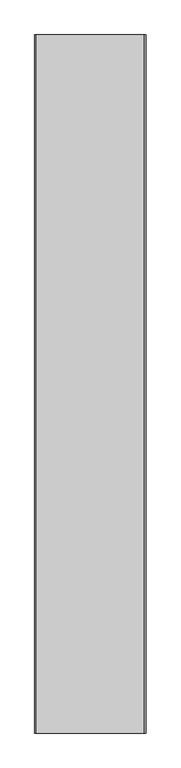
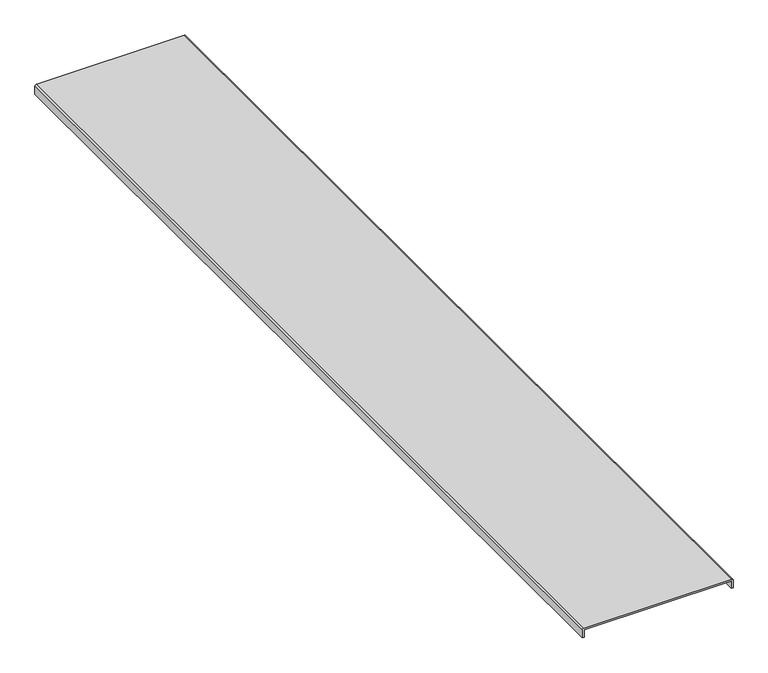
"""IFC4 building model written with IfcOpenShell, lengths in millimetres: proxy geometry, Cable_Tray_Cover_TWT_Basorcanal : Basorcanal TWT 300."""

from ifc_helpers import new_model, si_unit, point, frame, frame_2d, origin, place, context, project, spatial, polyline, circle_curve, trimmed, segment, composite_curve, outline, extrude, source, transform, mapped, element, save


def generic_models_ec9d9685(model_context):
    return source(origin(), model_context, "Body", "SweptSolid", [
        extrude(outline(composite_curve([segment(trimmed(circle_curve(frame_2d((-0.5, -149.5)), 0.5), [point((-0.5, -150.0))], [point((0.0, -149.5))], True, "CARTESIAN"), True, "CONTINUOUS"), segment(polyline([(0.0, -149.5), (0.0, 149.5)]), True, "CONTINUOUS"), segment(trimmed(circle_curve(frame_2d((-0.5, 149.5)), 0.5), [point((0.0, 149.5))], [point((-0.5, 150.0))], True, "CARTESIAN"), True, "CONTINUOUS"), segment(polyline([(-0.5, 150.0), (-16.0, 150.0), (-16.0, 154.0), (0.9268922, 154.0)]), True, "CONTINUOUS"), segment(trimmed(circle_curve(frame_2d((0.9268922, 150.9268922)), 3.0731078), [point((0.9268922, 154.0))], [point((4.0, 150.9268922))], False, "CARTESIAN"), True, "CONTINUOUS"), segment(polyline([(4.0, 150.9268922), (4.0, -150.6770801)]), True, "CONTINUOUS"), segment(trimmed(circle_curve(frame_2d((0.6770801, -150.6770801)), 3.3229199), [point((4.0, -150.6770801))], [point((0.6770801, -154.0))], False, "CARTESIAN"), True, "CONTINUOUS"), segment(polyline([(0.6770801, -154.0), (-16.0, -154.0), (-16.0, -150.0), (-0.5, -150.0)]), True, "CONTINUOUS")], self_intersect=False)), frame((0.0, 0.0, 0.0), z_axis=(0.0, 1.0, 0.0), x_axis=(0.0, 0.0, 1.0)), (0.0, 0.0, 1.0), 1933.9),
    ])


if __name__ == "__main__":
    model = new_model("IFC4")
    model_context = context("Model", 3, world=origin())
    ifc_project = project(units=[si_unit("LENGTHUNIT", "METRE", prefix="MILLI")], contexts=[model_context])
    site = spatial("IfcSite", under=ifc_project)
    building = spatial("IfcBuilding", under=site)
    placement = place(None, origin())
    generic_models_shape = generic_models_ec9d9685(model_context)
    element("IfcBuildingElementProxy", 1, Name="Cable_Tray_Cover_TWT_Basorcanal : Basorcanal TWT 300", ObjectType="Cable_Tray_Cover_TWT_Basorcanal : Basorcanal TWT 300", at=placement, inside=building, context=model_context, shape_type="MappedRepresentation", body=[
        mapped(generic_models_shape, transform((0.0, 0.0, 0.0), x_axis=(1.0, 0.0, 0.0), y_axis=(0.0, 1.0, 0.0), z_axis=(0.0, 0.0, 1.0))),
    ])
    save(model, "model.ifc")
